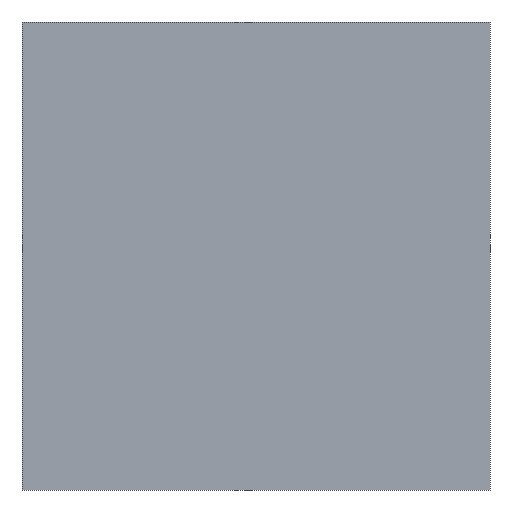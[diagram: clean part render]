
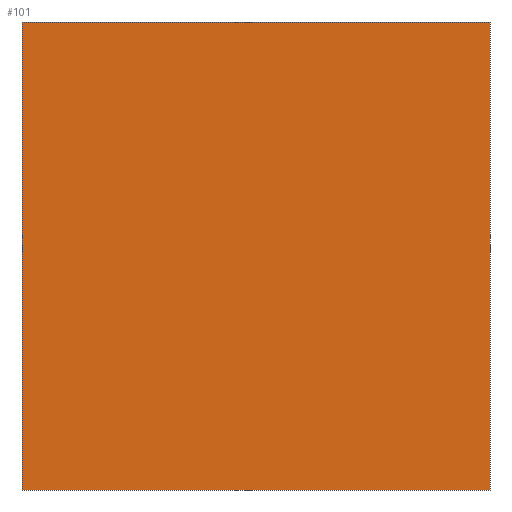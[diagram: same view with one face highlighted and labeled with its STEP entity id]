
A CAD part, left-side view. The second image highlights one B-rep face of the part: STEP entity #101.
In plain terms, the highlighted planar face has unit normal (-1, 0, 0).
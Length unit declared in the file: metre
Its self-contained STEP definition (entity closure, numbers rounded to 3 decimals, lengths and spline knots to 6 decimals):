
#24=ORIENTED_EDGE('',*,*,#38,.F.);
#25=ORIENTED_EDGE('',*,*,#46,.T.);
#26=ORIENTED_EDGE('',*,*,#43,.T.);
#27=ORIENTED_EDGE('',*,*,#47,.F.);
#38=EDGE_CURVE('',#50,#51,#58,.T.);
#43=EDGE_CURVE('',#54,#55,#63,.T.);
#46=EDGE_CURVE('',#50,#54,#66,.T.);
#47=EDGE_CURVE('',#51,#55,#67,.T.);
#50=VERTEX_POINT('',#155);
#51=VERTEX_POINT('',#157);
#54=VERTEX_POINT('',#167);
#55=VERTEX_POINT('',#168);
#58=LINE('',#156,#70);
#63=LINE('',#166,#75);
#66=LINE('',#172,#78);
#67=LINE('',#173,#79);
#70=VECTOR('',#129,1.);
#75=VECTOR('',#138,1.);
#78=VECTOR('',#143,1.);
#79=VECTOR('',#144,1.);
#83=EDGE_LOOP('',(#24,#25,#26,#27));
#89=FACE_BOUND('',#83,.T.);
#95=PLANE('',#120);
#101=ADVANCED_FACE('',(#89),#95,.T.);
#120=AXIS2_PLACEMENT_3D('',#171,#141,#142);
#129=DIRECTION('',(0.,0.,-1.));
#138=DIRECTION('',(0.,0.,-1.));
#141=DIRECTION('',(-1.,0.,0.));
#142=DIRECTION('',(0.,-1.,0.));
#143=DIRECTION('',(0.,1.,0.));
#144=DIRECTION('',(0.,1.,0.));
#155=CARTESIAN_POINT('',(0.002,0.016375,0.00175));
#156=CARTESIAN_POINT('',(0.002,0.016375,0.003062));
#157=CARTESIAN_POINT('',(0.002,0.016375,0.0005));
#166=CARTESIAN_POINT('',(0.002,0.017625,0.003062));
#167=CARTESIAN_POINT('',(0.002,0.017625,0.00175));
#168=CARTESIAN_POINT('',(0.002,0.017625,0.0005));
#171=CARTESIAN_POINT('',(0.002,0.016375,0.003062));
#172=CARTESIAN_POINT('',(0.002,0.016375,0.00175));
#173=CARTESIAN_POINT('',(0.002,0.016375,0.0005));
